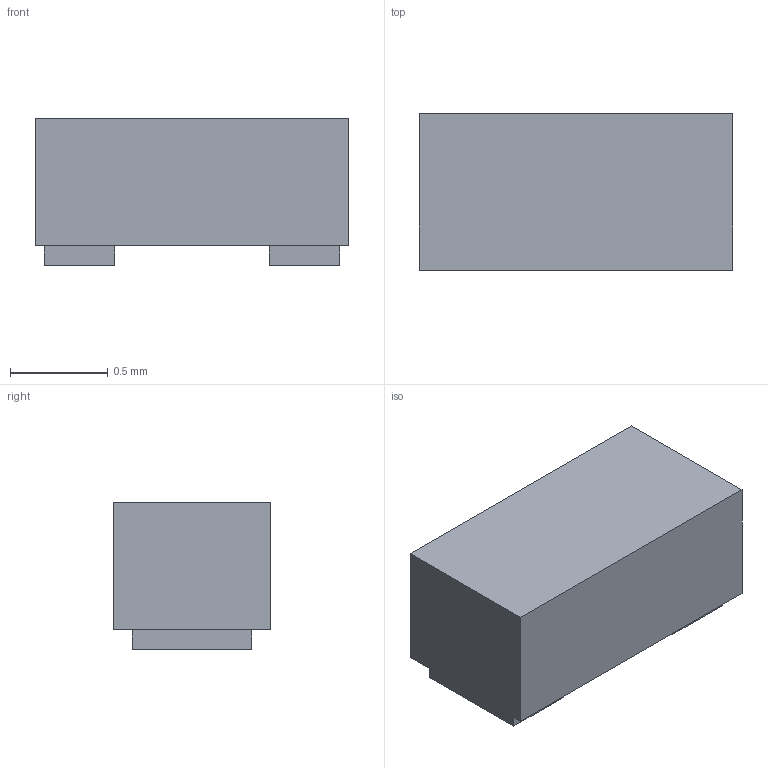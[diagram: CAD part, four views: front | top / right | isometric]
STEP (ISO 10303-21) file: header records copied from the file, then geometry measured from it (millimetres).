
FILE_DESCRIPTION(('FreeCAD Model'),'2;1');
FILE_NAME('/var/www/3D/0T/1539545.1.2.stp','2022-09-23T10:23:56',( 'Author'),(''),'Open CASCADE STEP processor 6.9','FreeCAD','Unknown' );
FILE_SCHEMA(('AUTOMOTIVE_DESIGN { 1 0 10303 214 1 1 1 1 }'));
Length unit declared in the file: millimetre
Products named in the file (3): ASSEMBLY; Body; Pins
Assembly tree (2 placements, depth 2):
  ASSEMBLY
    Body
    Pins
Bounding box: 1.6 x 0.8 x 0.75 mm (x, y, z)
Volume: 0.9 mm3; surface area: 6.9 mm2
Topology: 3 solids, 3 shells, 18 faces, 36 edges, 24 vertices
Faces by surface type: plane 18
Entity records: 1001 total; most frequent: CARTESIAN_POINT 153, DIRECTION 150, LINE 108, VECTOR 108, ORIENTED_EDGE 72, PCURVE 72, DEFINITIONAL_REPRESENTATION 72, EDGE_CURVE 36
